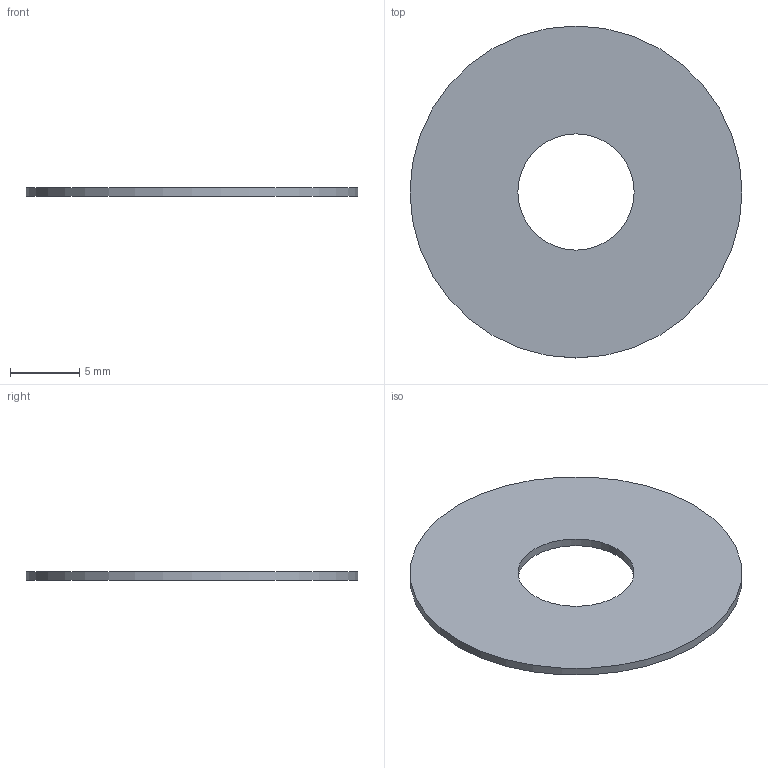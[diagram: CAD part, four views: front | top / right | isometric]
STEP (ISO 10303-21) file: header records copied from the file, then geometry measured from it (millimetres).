
FILE_DESCRIPTION(('Open CASCADE Model'),'2;1');
FILE_NAME('Open CASCADE Shape Model','2026-09-24T17:43:00',('Author'),( 'Open CASCADE'),'Open CASCADE STEP processor 7.8','Open CASCADE 7.8' ,'Unknown');
FILE_SCHEMA(('AUTOMOTIVE_DESIGN { 1 0 10303 214 1 1 1 1 }'));
Length unit declared in the file: millimetre
Products named in the file (1): Open CASCADE STEP translator 7.8 12
Bounding box: 24 x 24 x 0.6 mm (x, y, z)
Volume: 238.2 mm3; surface area: 855 mm2
Topology: 1 solids, 1 shells, 4 faces, 6 edges, 4 vertices
Faces by surface type: cylinder 2, plane 2
Full cylindrical faces by diameter (mm): 8.4 x1, 24 x1
Entity records: 186 total; most frequent: DIRECTION 32, CARTESIAN_POINT 27, ORIENTED_EDGE 12, PCURVE 12, DEFINITIONAL_REPRESENTATION 12, LINE 10, VECTOR 10, AXIS2_PLACEMENT_3D 9
